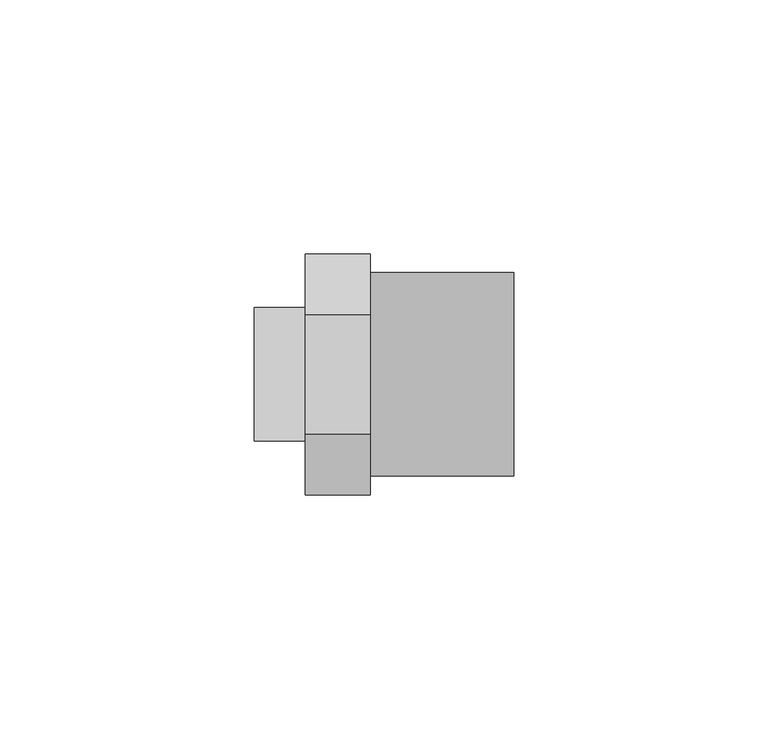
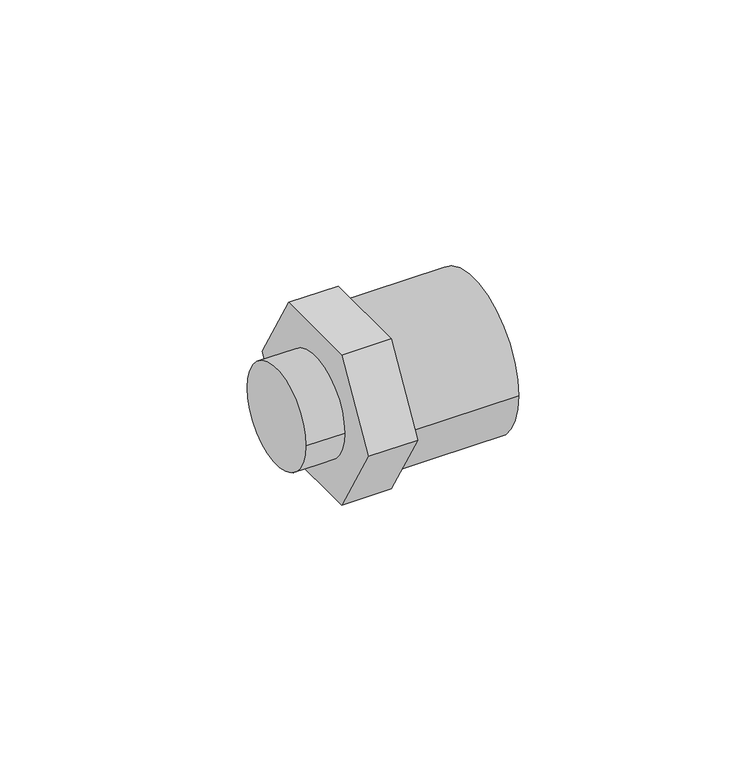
"""IFC4 building model written with IfcOpenShell, lengths in millimetres: pipe fitting geometry, 01101008 : Manguitos multiplos H/M/H."""

import ifcopenshell
import ifcopenshell.guid

model = None  # the IFC model being written
_history = None  # IfcOwnerHistory: only IFC2X3 demands one
_inside = {}  # id of a spatial element -> (the spatial element, [elements in it])
_under = {}  # id of a project, library or spatial element -> (it, [spatial elements below it])
_declared = {}  # id of a project -> (the project, [libraries it declares])
_typed = {}  # id of a type object -> (the type object, [elements of that type])
_made_of = {}  # id of a material, layer set ... -> (it, [elements and type objects made of it])


def new_model(schema):
    """Start an empty IFC model of exactly this schema.

    Asked for "IFC4X3", IfcOpenShell would pick the latest addendum, in which some entities
    have other attributes; the version numbers below select the first issue.
    IFC2X3 requires an IfcOwnerHistory on every rooted entity: one is made here for all.
    """
    global model, _history
    if schema == "IFC4X3":
        model = ifcopenshell.file(schema_version=(4, 3, 0, 0))
    else:
        model = ifcopenshell.file(schema=schema)
    _inside.clear()
    _under.clear()
    _declared.clear()
    _typed.clear()
    _made_of.clear()
    _history = None
    if model.schema == "IFC2X3":
        org = make("IfcOrganization", Name="unknown")
        user = make(
            "IfcPersonAndOrganization",
            ThePerson=make("IfcPerson", FamilyName="unknown"),
            TheOrganization=org,
        )
        app = make(
            "IfcApplication",
            ApplicationDeveloper=org,
            Version="unknown",
            ApplicationFullName="unknown",
            ApplicationIdentifier="unknown",
        )
        _history = make(
            "IfcOwnerHistory",
            OwningUser=user,
            OwningApplication=app,
            ChangeAction="ADDED",
            CreationDate=0,
        )
    return model


def make(cls, **values):
    """One entity of the class cls with the attributes given. An attribute that is None is left unset."""
    return model.create_entity(
        cls, **{name: value for name, value in values.items() if value is not None}
    )


def rooted(cls, **values):
    """An entity with a GlobalId (a new one), such as an element, a storey or a relation."""
    return make(cls, GlobalId=ifcopenshell.guid.new(), OwnerHistory=_history, **values)


def si_unit(unit_type, name, prefix=None):
    """IfcSIUnit, for example si_unit("LENGTHUNIT", "METRE", prefix="MILLI")."""
    return make("IfcSIUnit", UnitType=unit_type, Prefix=prefix, Name=name)


def assignment(units):
    """IfcUnitAssignment: the units of a project."""
    return None if units is None else make("IfcUnitAssignment", Units=units)


def point(xyz):
    """IfcCartesianPoint."""
    return None if xyz is None else make("IfcCartesianPoint", Coordinates=xyz)


def direction(xyz):
    """IfcDirection."""
    return None if xyz is None else make("IfcDirection", DirectionRatios=xyz)


def frame(location, z_axis=None, x_axis=None):
    """IfcAxis2Placement3D, a coordinate frame: its origin and axes. An axis left out is left unset."""
    return make(
        "IfcAxis2Placement3D",
        Location=point(location),
        Axis=direction(z_axis),
        RefDirection=direction(x_axis),
    )


def frame_2d(location, x_axis=None):
    """IfcAxis2Placement2D, a coordinate frame in the plane: its origin and x axis."""
    return make(
        "IfcAxis2Placement2D", Location=point(location), RefDirection=direction(x_axis)
    )


def origin():
    """The frame at (0, 0, 0) with its axes left unset."""
    return frame((0.0, 0.0, 0.0))


def origin_2d():
    """The frame at (0, 0) in the plane with its x axis left unset."""
    return frame_2d((0.0, 0.0))


def place(relative_to, where):
    """IfcLocalPlacement: puts the frame where relative to a parent placement (None: the world)."""
    return make(
        "IfcLocalPlacement", PlacementRelTo=relative_to, RelativePlacement=where
    )


def context(
    kind, dimensions, precision=None, world=None, true_north=None, identifier=None
):
    """IfcGeometricRepresentationContext, for example the 3D "Model" context."""
    return make(
        "IfcGeometricRepresentationContext",
        ContextIdentifier=identifier,
        ContextType=kind,
        CoordinateSpaceDimension=dimensions,
        Precision=precision,
        WorldCoordinateSystem=world,
        TrueNorth=true_north,
    )


def project(units=None, contexts=None):
    """IfcProject with its units and contexts."""
    return rooted(
        "IfcProject",
        Name="project",
        RepresentationContexts=contexts,
        UnitsInContext=assignment(units),
    )


def spatial(cls, under=None, at=None, **own):
    """A site, building, storey or space (cls), placed at a placement, below another one or the project."""
    s = rooted(cls, ObjectPlacement=at, **own)
    if under is not None:
        _under.setdefault(under.id(), (under, []))[1].append(s)
    return s


def polyline(points):
    """IfcPolyline through the points."""
    return make("IfcPolyline", Points=[point(p) for p in points])


def circle_curve(where, radius):
    """IfcCircle in the frame where."""
    return make("IfcCircle", Position=where, Radius=radius)


def trimmed(basis, trim1, trim2, sense, master):
    """IfcTrimmedCurve: the piece of a basis curve between two trims."""
    return make(
        "IfcTrimmedCurve",
        BasisCurve=basis,
        Trim1=trim1,
        Trim2=trim2,
        SenseAgreement=sense,
        MasterRepresentation=master,
    )


def segment(curve, same_sense, transition):
    """IfcCompositeCurveSegment."""
    return make(
        "IfcCompositeCurveSegment",
        Transition=transition,
        SameSense=same_sense,
        ParentCurve=curve,
    )


def composite_curve(segments, self_intersect=None):
    """IfcCompositeCurve: segments joined end to end."""
    return make("IfcCompositeCurve", Segments=segments, SelfIntersect=self_intersect)


def outline(outer, holes=None, kind="AREA"):
    """IfcArbitraryClosedProfileDef: a profile drawn as a closed curve; with holes, ...WithVoids."""
    if holes is None:
        return make("IfcArbitraryClosedProfileDef", ProfileType=kind, OuterCurve=outer)
    return make(
        "IfcArbitraryProfileDefWithVoids",
        ProfileType=kind,
        OuterCurve=outer,
        InnerCurves=holes,
    )


def extrude(swept, where, along, depth):
    """IfcExtrudedAreaSolid: the profile swept, set in the frame where, extruded along a direction by depth."""
    return make(
        "IfcExtrudedAreaSolid",
        SweptArea=swept,
        Position=where,
        ExtrudedDirection=direction(along),
        Depth=depth,
    )


def shape(context_of_items, identifier, shape_type, items):
    """IfcShapeRepresentation: the items that make up one representation, for example the "Body"."""
    return make(
        "IfcShapeRepresentation",
        ContextOfItems=context_of_items,
        RepresentationIdentifier=identifier,
        RepresentationType=shape_type,
        Items=items,
    )


def source(mapping_origin, context_of_items, identifier, shape_type, items):
    """IfcRepresentationMap: a shape defined once, which mapped items show again and again."""
    return make(
        "IfcRepresentationMap",
        MappingOrigin=mapping_origin,
        MappedRepresentation=shape(context_of_items, identifier, shape_type, items),
    )


def transform(
    local_origin,
    x_axis=None,
    y_axis=None,
    z_axis=None,
    scale=None,
    scale2=None,
    scale3=None,
    uniform=True,
):
    """IfcCartesianTransformationOperator3D, or its non-uniform kind. x_axis, y_axis, z_axis: its Axis1, 2, 3."""
    if uniform:
        return make(
            "IfcCartesianTransformationOperator3D",
            Axis1=direction(x_axis),
            Axis2=direction(y_axis),
            LocalOrigin=point(local_origin),
            Scale=scale,
            Axis3=direction(z_axis),
        )
    return make(
        "IfcCartesianTransformationOperator3DnonUniform",
        Axis1=direction(x_axis),
        Axis2=direction(y_axis),
        LocalOrigin=point(local_origin),
        Scale=scale,
        Axis3=direction(z_axis),
        Scale2=scale2,
        Scale3=scale3,
    )


def mapped(mapping_source, mapping_target):
    """IfcMappedItem: shows the shape of a source again, moved by a transform."""
    return make(
        "IfcMappedItem", MappingSource=mapping_source, MappingTarget=mapping_target
    )


def made_of(thing, what):
    """Note that an element or type object is made of a material, layer set ...; save() writes the relation."""
    if what is not None:
        _made_of.setdefault(what.id(), (what, []))[1].append(thing)
    return thing


def element(
    cls,
    number,
    at=None,
    inside=None,
    cuts=None,
    type_object=None,
    material=None,
    context=None,
    identifier="Body",
    shape_type=None,
    held_by="IfcProductDefinitionShape",
    body=None,
    shapes=None,
    **own,
):
    """One element of the class cls, such as IfcWall. Its Tag is "e" and its number.

    at: its placement. inside: the storey or other place that contains it. cuts: it is an
    opening in that element (IfcRelVoidsElement). A single representation is given by context,
    identifier, shape_type and body (its items); several are given by shapes. held_by: the class
    of the entity that holds the representations. save() writes the other relations.
    """
    e = rooted(cls, Tag="e%d" % number, ObjectPlacement=at, **own)
    if body is not None:
        shapes = [shape(context, identifier, shape_type, body)]
    if shapes is not None:
        e.Representation = make(held_by, Representations=shapes)
    if inside is not None:
        _inside.setdefault(inside.id(), (inside, []))[1].append(e)
    if cuts is not None:
        rooted(
            "IfcRelVoidsElement", RelatingBuildingElement=cuts, RelatedOpeningElement=e
        )
    if type_object is not None:
        _typed.setdefault(type_object.id(), (type_object, []))[1].append(e)
    return made_of(e, material)


def aggregate(whole, parts):
    """IfcRelAggregates: a whole, such as a stair, and the parts it consists of."""
    return rooted("IfcRelAggregates", RelatingObject=whole, RelatedObjects=parts)


def save(model, path):
    """Write the relations noted so far, then the file.

    IfcRelAggregates (storeys below a building ...), IfcRelContainedInSpatialStructure (elements
    in a storey), IfcRelDefinesByType, IfcRelAssociatesMaterial and IfcRelDeclares: one each for
    every whole, place, type object, material and project.
    """
    for whole, parts in _under.values():
        aggregate(whole, parts)
    for where, things in _inside.values():
        rooted(
            "IfcRelContainedInSpatialStructure",
            RelatedElements=things,
            RelatingStructure=where,
        )
    for kind, things in _typed.values():
        rooted("IfcRelDefinesByType", RelatedObjects=things, RelatingType=kind)
    for what, things in _made_of.values():
        rooted("IfcRelAssociatesMaterial", RelatedObjects=things, RelatingMaterial=what)
    for by, libraries in _declared.values():
        rooted("IfcRelDeclares", RelatingContext=by, RelatedDefinitions=libraries)
    model.write(path)


def pipe_fitting_775923ff(model_context):
    return source(origin(), model_context, "Body", "SweptSolid", [
        extrude(outline(composite_curve([segment(trimmed(circle_curve(origin_2d(), 13.125), [point((13.125, 0.0))], [point((-13.125, 0.0))], False, "CARTESIAN"), True, "CONTINUOUS"), segment(trimmed(circle_curve(origin_2d(), 13.125), [point((-13.125, 0.0))], [point((13.125, 0.0))], False, "CARTESIAN"), True, "CONTINUOUS")], self_intersect=False)), frame((0.0, 0.0, 0.0), z_axis=(1.0, 0.0, 0.0), x_axis=(0.0, 1.0, 0.0)), (0.0, 0.0, 1.0), 10.0),
        extrude(outline(polyline([(-11.8356805, 20.5), (11.8356805, 20.5), (23.671361, 0.0), (11.8356805, -20.5), (-11.8356805, -20.5), (-23.671361, 0.0), (-11.8356805, 20.5)])), frame((10.0, 0.0, 0.0), z_axis=(1.0, 0.0, 0.0), x_axis=(0.0, 1.0, 0.0)), (0.0, 0.0, 1.0), 12.75),
        extrude(outline(composite_curve([segment(trimmed(circle_curve(origin_2d(), 20.0), [point((-20.0, 0.0))], [point((20.0, 0.0))], False, "CARTESIAN"), True, "CONTINUOUS"), segment(trimmed(circle_curve(origin_2d(), 20.0), [point((20.0, 0.0))], [point((-20.0, 0.0))], False, "CARTESIAN"), True, "CONTINUOUS")], self_intersect=False)), frame((22.75, 0.0, 0.0), z_axis=(1.0, 0.0, 0.0), x_axis=(0.0, 1.0, 0.0)), (0.0, 0.0, 1.0), 28.25),
    ])


if __name__ == "__main__":
    model = new_model("IFC4")
    model_context = context("Model", 3, world=origin())
    ifc_project = project(units=[si_unit("LENGTHUNIT", "METRE", prefix="MILLI")], contexts=[model_context])
    site = spatial("IfcSite", under=ifc_project)
    building = spatial("IfcBuilding", under=site)
    placement = place(None, origin())
    pipe_fitting_shape = pipe_fitting_775923ff(model_context)
    element("IfcPipeFitting", 1, ObjectType="01101008 : Manguitos multiplos H/M/H", at=placement, inside=building, context=model_context, shape_type="MappedRepresentation", body=[
        mapped(pipe_fitting_shape, transform((0.0, 0.0, 0.0), x_axis=(1.0, 0.0, 0.0), y_axis=(0.0, 1.0, 0.0), z_axis=(0.0, 0.0, 1.0))),
    ])
    save(model, "model.ifc")
